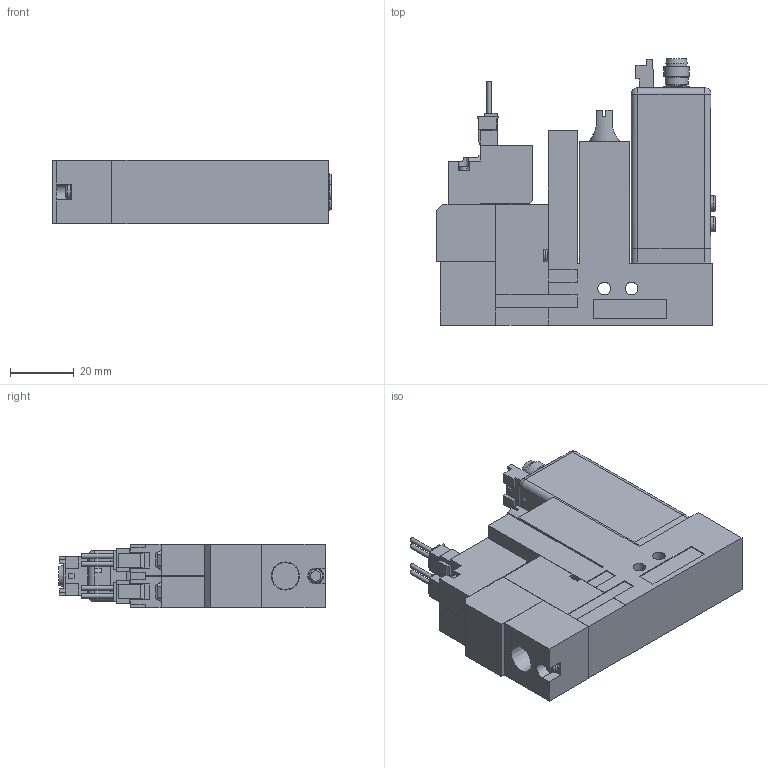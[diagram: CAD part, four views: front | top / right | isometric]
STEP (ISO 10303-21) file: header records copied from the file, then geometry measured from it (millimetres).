
FILE_DESCRIPTION(('STEP AP203'),'1');
FILE_NAME('22_22PL5BLR.stp','2025-06-05T07:45:16',(' '),(' '),'Spatial InterOp 3D',' ',' ');
FILE_SCHEMA(('CONFIG_CONTROL_DESIGN'));
Length unit declared in the file: millimetre
Products named in the file (5): BMC22S※※※※22_22PL5BLR; Solenoid valve B; Unit L; Base SR10R; MVS-202
Assembly tree (4 placements, depth 2):
  BMC22S※※※※22_22PL5BLR
    Solenoid valve B
    Unit L
    Base SR10R
    MVS-202
Bounding box: 87.5 x 83.6 x 20 mm (x, y, z)
Volume: 96026.3 mm3; surface area: 28733.5 mm2
Topology: 4 solids, 8 shells, 747 faces, 1934 edges, 1264 vertices
Faces by surface type: plane 632, cylinder 90, cone 15, torus 6, sphere 4
Full cylindrical faces by diameter (mm): 1 x4, 1.4 x4, 1.5 x1, 2.5 x1, 3 x4, 3.5 x4, 3.6 x1, 4 x2, 4.134 x1, 4.5 x4, 4.8 x3, 5 x2, 5.8 x2, 6 x2, 6.5 x3, 7 x1, 7.2 x1, 7.9 x1, 8 x2
Entity records: 22414 total; most frequent: CARTESIAN_POINT 4016, ORIENTED_EDGE 3706, DIRECTION 3587, EDGE_CURVE 1853, LINE 1591, VECTOR 1591, VERTEX_POINT 1252, AXIS2_PLACEMENT_3D 998
